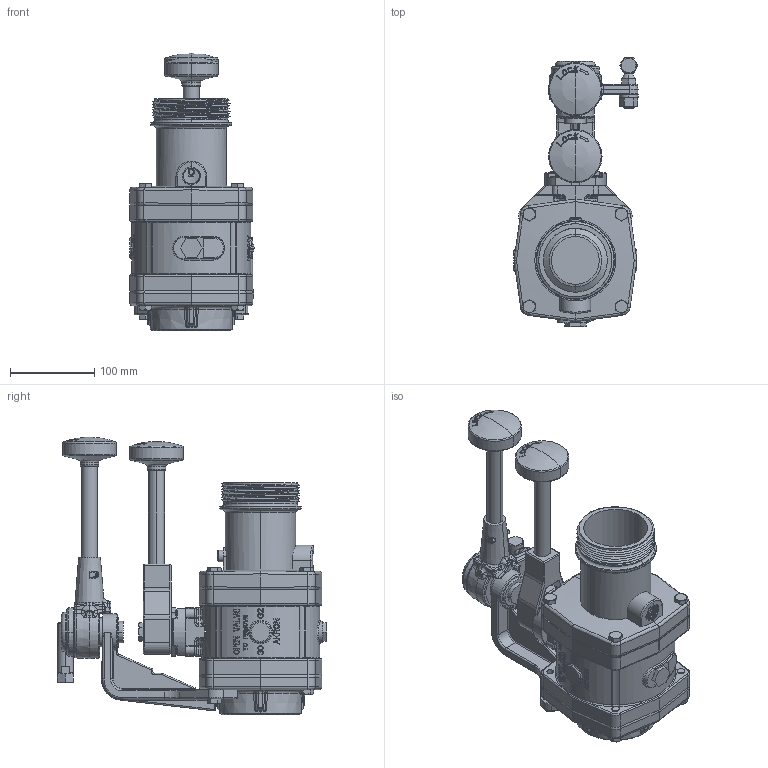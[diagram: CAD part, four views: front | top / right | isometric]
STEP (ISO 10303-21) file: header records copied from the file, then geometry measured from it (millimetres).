
FILE_DESCRIPTION((''),'2;1');
FILE_NAME('75920003_06','2016-11-09T',('sobrien2'),(''),'CREO PARAMETRIC BY PTC INC, 2015290','CREO PARAMETRIC BY PTC INC, 2015290','');
FILE_SCHEMA(('CONFIG_CONTROL_DESIGN'));
Length unit declared in the file: inch
Products named in the file (1): 75920003_06
Bounding box: 147.64 x 320.1 x 330.12 mm (x, y, z)
Surface area: 445708.6 mm2 (no closed solid volume)
Topology: 0 solids, 91 shells, 1898 faces, 7525 edges, 5654 vertices
Faces by surface type: plane 528, cylinder 508, bspline 388, cone 241, torus 166, sphere 67
Entity records: 106916 total; most frequent: CARTESIAN_POINT 49689, ORIENTED_EDGE 11514, DIRECTION 10562, EDGE_CURVE 7515, VERTEX_POINT 5654, AXIS2_PLACEMENT_3D 3932, VECTOR 2698, LINE 2698
